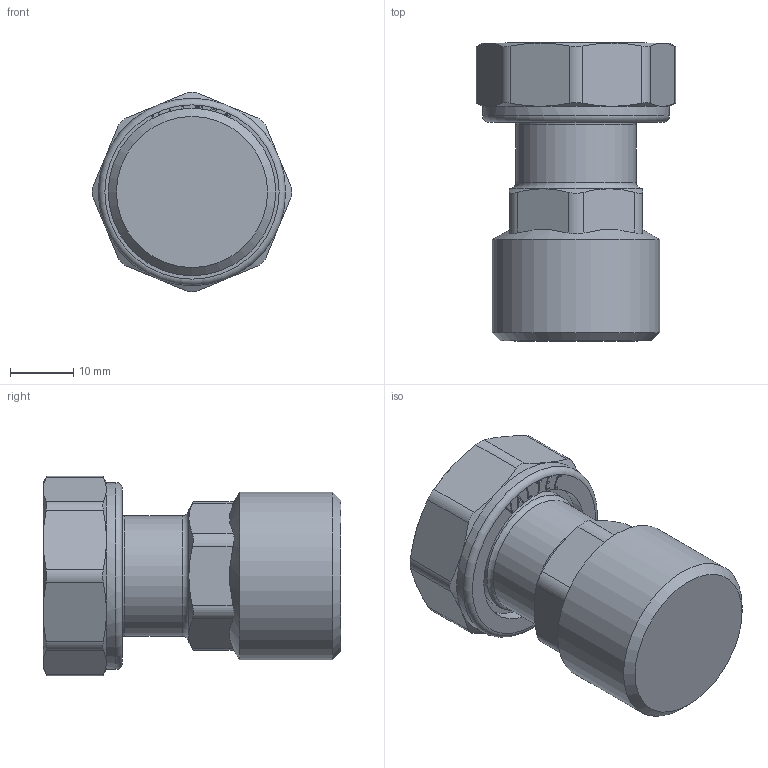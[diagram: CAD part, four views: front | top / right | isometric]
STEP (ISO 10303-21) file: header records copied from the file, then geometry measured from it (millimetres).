
FILE_DESCRIPTION(('STEP AP203'), '1');
FILE_NAME('覆.302638.010.000 捘 - VTr.613.N.0505', '2024-07-10T08:39:25', ('Boss'), (''), 'C3D Converter', 'C3D Toolkit', '');
FILE_SCHEMA(('CONFIG_CONTROL_DESIGN'));
Length unit declared in the file: millimetre
Products named in the file (1): ВР.302638.010.000 СБ
Bounding box: 31.52 x 47 x 31.52 mm (x, y, z)
Volume: 20732.7 mm3; surface area: 6116.1 mm2
Topology: 1 solids, 1 shells, 185 faces, 489 edges, 316 vertices
Faces by surface type: extrusion 71, plane 66, cone 25, cylinder 20, torus 3
Full cylindrical faces by diameter (mm): 19 x1, 20 x1, 22.4 x1, 24.118 x1, 26.441 x1, 29.5 x1
Entity records: 7669 total; most frequent: CARTESIAN_POINT 3538, ORIENTED_EDGE 950, DIRECTION 590, EDGE_CURVE 475, VERTEX_POINT 315, B_SPLINE_CURVE_WITH_KNOTS 291, VECTOR 290, LINE 219
